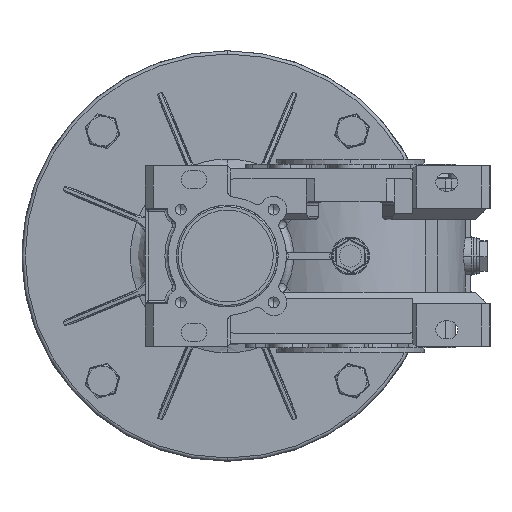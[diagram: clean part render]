
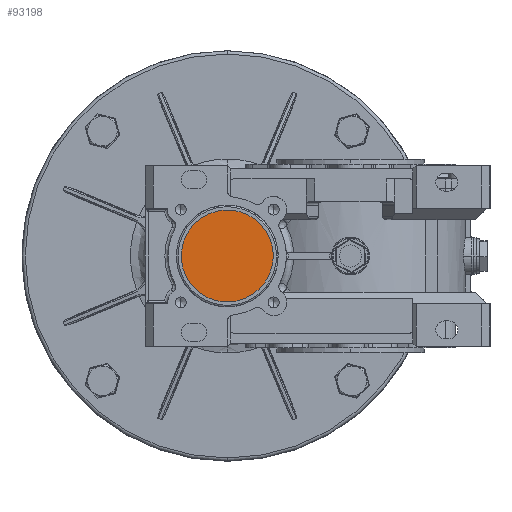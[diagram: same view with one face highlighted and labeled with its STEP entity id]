
A CAD part, left-side view. The second image highlights one B-rep face of the part: STEP entity #93198.
In plain terms, the highlighted planar face has unit normal (-1, 0, 0) as drawn and (0, 0, -1) by its records, which use the part's own axes.
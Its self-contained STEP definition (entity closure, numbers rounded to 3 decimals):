
#92710=CARTESIAN_POINT('',(16.348,4.007,0.5));
#92711=VERTEX_POINT('',#92710);
#92720=CARTESIAN_POINT('',(-39.652,4.007,0.5));
#92721=VERTEX_POINT('',#92720);
#92722=CARTESIAN_POINT('',(-11.652,4.007,0.5));
#92723=DIRECTION('',(0.0,0.0,-1.0));
#92724=DIRECTION('',(1.0,0.0,0.0));
#92725=AXIS2_PLACEMENT_3D('',#92722,#92723,#92724);
#92726=CIRCLE('',#92725,28.0);
#92727=EDGE_CURVE('',#92721,#92711,#92726,.T.);
#93179=CARTESIAN_POINT('',(-11.652,4.007,0.5));
#93180=DIRECTION('',(0.0,0.0,-1.0));
#93181=DIRECTION('',(1.0,0.0,0.0));
#93182=AXIS2_PLACEMENT_3D('',#93179,#93180,#93181);
#93183=CIRCLE('',#93182,28.0);
#93184=EDGE_CURVE('',#92711,#92721,#93183,.T.);
#93189=CARTESIAN_POINT('',(-11.652,4.007,0.5));
#93190=DIRECTION('',(0.0,0.0,1.0));
#93191=DIRECTION('',(1.0,0.0,0.0));
#93192=AXIS2_PLACEMENT_3D('',#93189,#93190,#93191);
#93193=PLANE('',#93192);
#93194=ORIENTED_EDGE('',*,*,#92727,.T.);
#93195=ORIENTED_EDGE('',*,*,#93184,.T.);
#93196=EDGE_LOOP('',(#93194,#93195));
#93197=FACE_OUTER_BOUND('',#93196,.T.);
#93198=ADVANCED_FACE('',(#93197),#93193,.F.);
